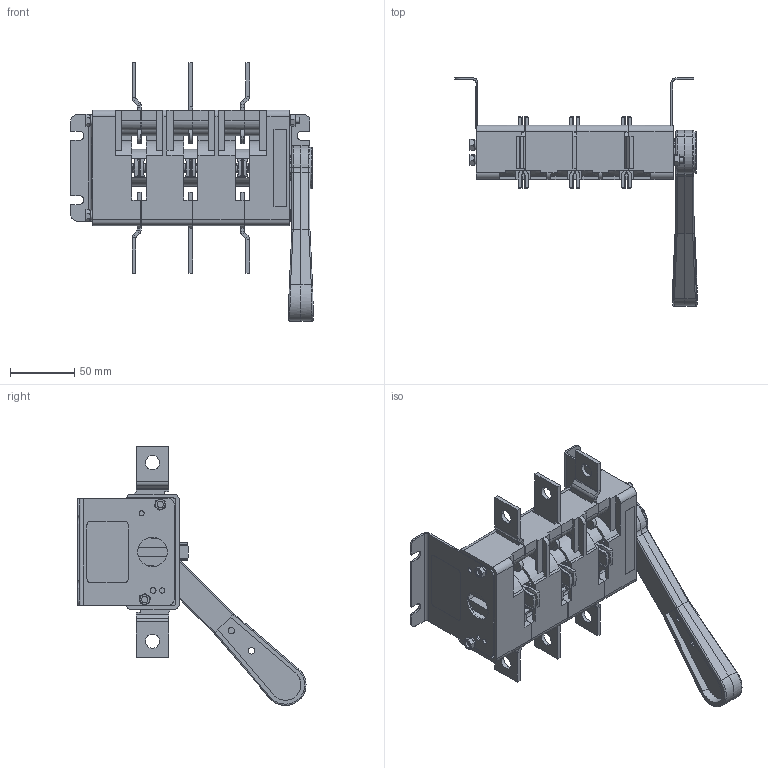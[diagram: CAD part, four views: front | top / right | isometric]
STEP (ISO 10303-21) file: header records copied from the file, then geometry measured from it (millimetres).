
FILE_DESCRIPTION (( 'STEP AP214' ), '1' );
FILE_NAME ('ﾂﾐ32-35ﾔ ﾃﾆﾈﾊ.642523.007-05 (ﾀ30220-250ﾀ).STEP', '2022-07-14T10:01:41', ( '' ), ( '' ), 'SwSTEP 2.0', 'SolidWorks 2018', '' );
FILE_SCHEMA (( 'AUTOMOTIVE_DESIGN' ));
Length unit declared in the file: millimetre
Products named in the file (29): Òàáëè÷êà äëÿ ñáîðêè ÷èñòàÿ; Áîêîâèíà ëåâàÿ ÃÆÈÊ.735224.025_-01(¢_ª); Áîêîâèíà ïðàâàÿ ÃÆÈÊ.735224.024; 想囫蜩磬_闷仁.745355.029; ﾂ鏆鮏 ﾃﾆﾈﾊ.745485.004_-00; 暑痫篑 镳噔 闷仁.735384.042; Êîíòàêò ïîäâèæíûé ÃÆÈÊ.685179.144_-01 (¤«ï á¡®ª¨); Êîðïóñ ñðåäíèé  ÃÆÈÊ.735384.043; Êîíòàêò ïîäâèæíûé_250À; Çàãëóøêà ÃÆÈÊ.735211.002_â¥å­®«®£¨ç¥áª ï; Ïðóæèíà_250À_-01(¤«ï á¡®àª¨); ﾂ鏆鮏 ﾃﾆﾈﾊ.745485.004_-01; Ãàéêà Ì5-6Í.5.016; 想囫蜩磬_闷仁.301714.003蚜; Ïðóæèíà ôèêñàòîðà_250À_-01 (®âª«îç¥­®); Ðóêîÿòêà ÃÆÈÊ.303658.015; ﾂ鏆鮏 ﾃﾆﾈﾊ.745485.003; Îñü; ﾘ琺矜 5 65ﾃ 016; Âàë ÃÆÈÊ.715274.002_-01 (¤«ï á¡®àª¨); 婰膲僗闉_005; Òàáëè÷êà äëÿ ñáîðêè ÷èñòàÿ áîëüøàÿ; Êîðïóñ  ëåâûé ÃÆÈÊ.735384.044; 澡犟囹铕 闷仁.745484.003; 想囫蜩磬_闷仁.745355.027; Øïèëüêà Ì5 ÃÆÈÊ.758292.004; Îáîëî÷êà 100-400À; 砑僔蠂縺_009; ﾂﾐ32-35ﾔ ﾃﾆﾈﾊ.642523.007-05 (ﾀ30220-250ﾀ)
Assembly tree (49 placements, depth 4):
  ﾂﾐ32-35ﾔ ﾃﾆﾈﾊ.642523.007-05 (ﾀ30220-250ﾀ)
    Âàë ÃÆÈÊ.715274.002_-01 (¤«ï á¡®àª¨)
    Êîíòàêò ïîäâèæíûé ÃÆÈÊ.685179.144_-01 (¤«ï á¡®ª¨)  x3
      Îñü
      砑僔蠂縺_009
      Êîíòàêò ïîäâèæíûé_250À
      婰膲僗闉_005
      Ïðóæèíà_250À_-01(¤«ï á¡®àª¨)
    Êîðïóñ  ëåâûé ÃÆÈÊ.735384.044
    Êîðïóñ ñðåäíèé  ÃÆÈÊ.735384.043  x2
    暑痫篑 镳噔 闷仁.735384.042
    Áîêîâèíà ïðàâàÿ ÃÆÈÊ.735224.024
    Áîêîâèíà ëåâàÿ ÃÆÈÊ.735224.025_-01(¢_ª)
    Øïèëüêà Ì5 ÃÆÈÊ.758292.004  x2
    Ãàéêà Ì5-6Í.5.016  x4
    ﾘ琺矜 5 65ﾃ 016  x4
    澡犟囹铕 闷仁.745484.003  x2
    Ïðóæèíà ôèêñàòîðà_250À_-01 (®âª«îç¥­®)  x2
    Ðóêîÿòêà ÃÆÈÊ.303658.015
      Îáîëî÷êà 100-400À
      想囫蜩磬_闷仁.301714.003蚜
        想囫蜩磬_闷仁.745355.027
        想囫蜩磬_闷仁.745355.029
    Çàãëóøêà ÃÆÈÊ.735211.002_â¥å­®«®£¨ç¥áª ï
    ﾂ鏆鮏 ﾃﾆﾈﾊ.745485.003  x2
    ﾂ鏆鮏 ﾃﾆﾈﾊ.745485.004_-00  x2
    ﾂ鏆鮏 ﾃﾆﾈﾊ.745485.004_-01  x2
    Òàáëè÷êà äëÿ ñáîðêè ÷èñòàÿ
    Òàáëè÷êà äëÿ ñáîðêè ÷èñòàÿ áîëüøàÿ
Bounding box: 188.59 x 177.48 x 201.48 mm (x, y, z)
Volume: 406596.5 mm3; surface area: 253485.2 mm2
Topology: 66 solids, 66 shells, 2153 faces, 5410 edges, 3450 vertices
Faces by surface type: plane 1267, cylinder 702, bspline 87, cone 76, torus 21
Entity records: 43347 total; most frequent: CARTESIAN_POINT 14052, DIRECTION 5986, ORIENTED_EDGE 5692, EDGE_CURVE 2846, AXIS2_PLACEMENT_3D 2094, VERTEX_POINT 1832, LINE 1798, VECTOR 1798
